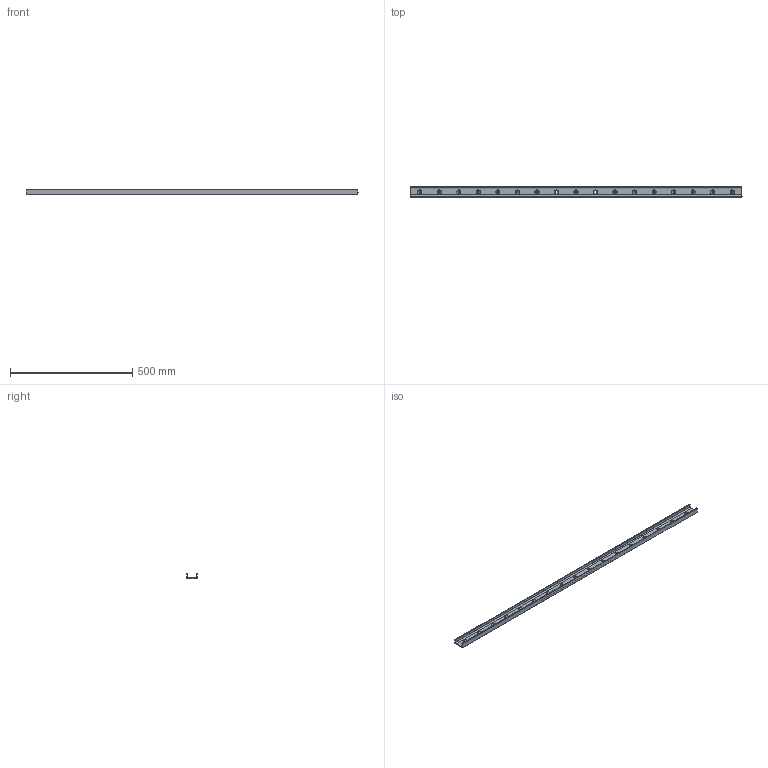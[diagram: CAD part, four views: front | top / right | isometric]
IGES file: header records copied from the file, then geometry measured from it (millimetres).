
Start section: SolidWorks IGES file using analytic representation for surfaces
Global section: file name: C:\Users\IanO\Desktop\43\L1943.ULV43_v2_20180121_IGES\L1943.ULV43-1360.igs; native system: SolidWorks 2017; preprocessor: SolidWorks 2017; author: IanO; date: 190121.090049; units: millimetre
Bounding box: 1360 x 43 x 21 mm (x, y, z)
Surface area: 211365.6 mm2 (no closed solid volume)
Topology: 0 solids, 0 shells, 94 faces, 1654 edges, 1654 vertices
Faces by surface type: revolution 81, bspline 13
